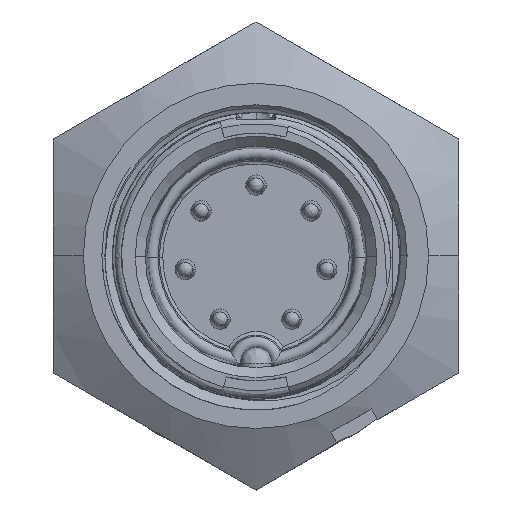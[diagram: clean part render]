
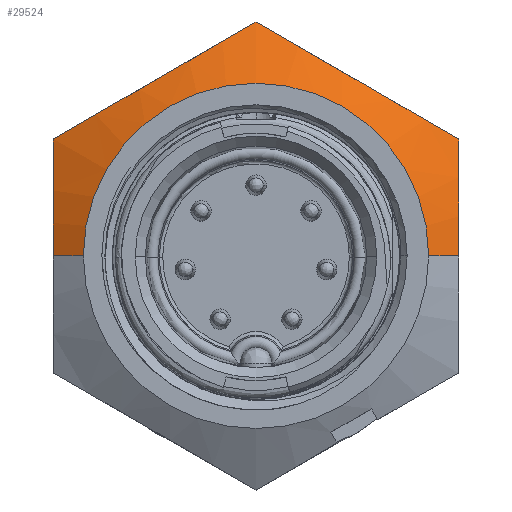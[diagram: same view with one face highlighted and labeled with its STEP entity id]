
A CAD part, top view. The second image highlights one B-rep face of the part: STEP entity #29524.
In plain terms, the highlighted conical face has half-angle 60 degrees and reference radius 11.934 mm.
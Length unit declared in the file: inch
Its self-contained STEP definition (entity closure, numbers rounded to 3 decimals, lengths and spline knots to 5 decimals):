
#356 = CARTESIAN_POINT ( 'NONE',  ( -0.34612, 0., 1.641 ) ) ;
#1277 = CARTESIAN_POINT ( 'NONE',  ( -0.40625, 0., 1.60628 ) ) ;
#1313 = CARTESIAN_POINT ( 'NONE',  ( -0.40625, 0.03996, 1.60628 ) ) ;
#1322 = CARTESIAN_POINT ( 'NONE',  ( -0.40625, 0.07942, 1.60283 ) ) ;
#1355 = CARTESIAN_POINT ( 'NONE',  ( -0.40625, 0.15753, 1.5902 ) ) ;
#1481 = CARTESIAN_POINT ( 'NONE',  ( -0.40625, 0.19618, 1.58108 ) ) ;
#1769 = CARTESIAN_POINT ( 'NONE',  ( -0.40625, 0.23455, 1.57 ) ) ;
#2964 = FACE_OUTER_BOUND ( 'NONE', #33357, .T. ) ;
#2995 = VERTEX_POINT ( 'NONE', #27398 ) ;
#4216 = ORIENTED_EDGE ( 'NONE', *, *, #6099, .T. ) ;
#4566 = CARTESIAN_POINT ( 'NONE',  ( -0.40625, 0., 1.60628 ) ) ;
#4913 = AXIS2_PLACEMENT_3D ( 'NONE', #26063, #26024, #25997 ) ;
#5503 = EDGE_CURVE ( 'NONE', #28295, #17199, #10158, .T. ) ;
#5546 = EDGE_CURVE ( 'NONE', #11580, #28295, #14494, .T. ) ;
#5643 = EDGE_CURVE ( 'NONE', #11580, #15665, #18390, .T. ) ;
#5691 = EDGE_CURVE ( 'NONE', #29184, #2995, #21371, .T. ) ;
#6099 = EDGE_CURVE ( 'NONE', #2995, #15665, #23730, .T. ) ;
#10158 = LINE ( 'NONE', #26788, #15761 ) ;
#10348 = CONICAL_SURFACE ( 'NONE', #16812, 0.46983, 1.047 ) ;
#11580 = VERTEX_POINT ( 'NONE', #356 ) ;
#12313 = ORIENTED_EDGE ( 'NONE', *, *, #5643, .F. ) ;
#14343 = ORIENTED_EDGE ( 'NONE', *, *, #30599, .T. ) ;
#14494 = CIRCLE ( 'NONE', #4913, 0.34612 ) ;
#15059 = DIRECTION ( 'NONE',  ( -1., 0., 0. ) ) ;
#15102 = ORIENTED_EDGE ( 'NONE', *, *, #5691, .T. ) ;
#15631 = DIRECTION ( 'NONE',  ( 0., 0., -1. ) ) ;
#15665 = VERTEX_POINT ( 'NONE', #4566 ) ;
#15714 = CARTESIAN_POINT ( 'NONE',  ( 0., 0., 1.56957 ) ) ;
#15761 = VECTOR ( 'NONE', #26418, 39.37008 ) ;
#16070 = VERTEX_POINT ( 'NONE', #18438 ) ;
#16140 = B_SPLINE_CURVE_WITH_KNOTS ( 'NONE', 3,
 ( #21823, #21868, #21743, #21700, #21625, #21581, #21502, #21460, #21341, #21266, #21155, #21118 ),
 .UNSPECIFIED., .F., .F.,
 ( 4, 2, 2, 2, 2, 4 ),
 ( 0., 0.00301, 0.00602, 0.00752, 0.00903, 0.01203 ),
 .UNSPECIFIED. ) ;
#16812 = AXIS2_PLACEMENT_3D ( 'NONE', #15714, #15631, #15059 ) ;
#17104 = VECTOR ( 'NONE', #24888, 39.37008 ) ;
#17199 = VERTEX_POINT ( 'NONE', #21168 ) ;
#17377 = B_SPLINE_CURVE_WITH_KNOTS ( 'NONE', 3,
 ( #31341, #32039, #30827, #30766, #30722, #30660, #30619, #30579 ),
 .UNSPECIFIED., .F., .F.,
 ( 4, 2, 2, 4 ),
 ( 0.00603, 0.00753, 0.00903, 0.01203 ),
 .UNSPECIFIED. ) ;
#18390 = LINE ( 'NONE', #26098, #17104 ) ;
#18438 = CARTESIAN_POINT ( 'NONE',  ( 0.40625, 0.23455, 1.57 ) ) ;
#19147 = ORIENTED_EDGE ( 'NONE', *, *, #5546, .T. ) ;
#20255 = CARTESIAN_POINT ( 'NONE',  ( 0.34612, 0., 1.641 ) ) ;
#20903 = CARTESIAN_POINT ( 'NONE',  ( 0., 0.4691, 1.57 ) ) ;
#21118 = CARTESIAN_POINT ( 'NONE',  ( 0., 0.4691, 1.57 ) ) ;
#21155 = CARTESIAN_POINT ( 'NONE',  ( 0.03321, 0.44992, 1.58107 ) ) ;
#21168 = CARTESIAN_POINT ( 'NONE',  ( 0.40625, 0., 1.60628 ) ) ;
#21266 = CARTESIAN_POINT ( 'NONE',  ( 0.06669, 0.43059, 1.5902 ) ) ;
#21341 = CARTESIAN_POINT ( 'NONE',  ( 0.11753, 0.40124, 1.59969 ) ) ;
#21371 = B_SPLINE_CURVE_WITH_KNOTS ( 'NONE', 3,
 ( #24379, #24388, #24299, #24292, #24269, #24260, #24227, #24182, #24176, #24150, #24138, #24108 ),
 .UNSPECIFIED., .F., .F.,
 ( 4, 2, 2, 2, 2, 4 ),
 ( 0., 0.00301, 0.00602, 0.00752, 0.00903, 0.01203 ),
 .UNSPECIFIED. ) ;
#21460 = CARTESIAN_POINT ( 'NONE',  ( 0.13457, 0.3914, 1.60214 ) ) ;
#21502 = CARTESIAN_POINT ( 'NONE',  ( 0.16889, 0.37159, 1.60545 ) ) ;
#21581 = CARTESIAN_POINT ( 'NONE',  ( 0.18624, 0.36157, 1.6063 ) ) ;
#21625 = CARTESIAN_POINT ( 'NONE',  ( 0.23805, 0.33166, 1.60626 ) ) ;
#21700 = CARTESIAN_POINT ( 'NONE',  ( 0.27216, 0.31196, 1.60279 ) ) ;
#21743 = CARTESIAN_POINT ( 'NONE',  ( 0.33968, 0.27299, 1.59017 ) ) ;
#21823 = CARTESIAN_POINT ( 'NONE',  ( 0.40625, 0.23455, 1.57 ) ) ;
#21868 = CARTESIAN_POINT ( 'NONE',  ( 0.37308, 0.2537, 1.58106 ) ) ;
#23730 = B_SPLINE_CURVE_WITH_KNOTS ( 'NONE', 3,
 ( #1769, #1481, #1355, #1322, #1313, #1277 ),
 .UNSPECIFIED., .F., .F.,
 ( 4, 2, 4 ),
 ( 0., 0.00301, 0.00603 ),
 .UNSPECIFIED. ) ;
#24108 = CARTESIAN_POINT ( 'NONE',  ( -0.40625, 0.23455, 1.57 ) ) ;
#24138 = CARTESIAN_POINT ( 'NONE',  ( -0.37304, 0.25372, 1.58107 ) ) ;
#24150 = CARTESIAN_POINT ( 'NONE',  ( -0.33956, 0.27305, 1.5902 ) ) ;
#24176 = CARTESIAN_POINT ( 'NONE',  ( -0.28872, 0.3024, 1.59969 ) ) ;
#24182 = CARTESIAN_POINT ( 'NONE',  ( -0.27168, 0.31224, 1.60214 ) ) ;
#24227 = CARTESIAN_POINT ( 'NONE',  ( -0.23736, 0.33206, 1.60545 ) ) ;
#24260 = CARTESIAN_POINT ( 'NONE',  ( -0.22001, 0.34208, 1.6063 ) ) ;
#24269 = CARTESIAN_POINT ( 'NONE',  ( -0.1682, 0.37199, 1.60626 ) ) ;
#24292 = CARTESIAN_POINT ( 'NONE',  ( -0.13409, 0.39168, 1.60279 ) ) ;
#24299 = CARTESIAN_POINT ( 'NONE',  ( -0.06657, 0.43066, 1.59017 ) ) ;
#24379 = CARTESIAN_POINT ( 'NONE',  ( 0., 0.4691, 1.57 ) ) ;
#24388 = CARTESIAN_POINT ( 'NONE',  ( -0.03317, 0.44995, 1.58106 ) ) ;
#24888 = DIRECTION ( 'NONE',  ( -0.866, 0., -0.5 ) ) ;
#25997 = DIRECTION ( 'NONE',  ( -1., 0., 0. ) ) ;
#26024 = DIRECTION ( 'NONE',  ( 0., 0., -1. ) ) ;
#26063 = CARTESIAN_POINT ( 'NONE',  ( 0., 0., 1.641 ) ) ;
#26098 = CARTESIAN_POINT ( 'NONE',  ( -0.46983, 0., 1.56957 ) ) ;
#26418 = DIRECTION ( 'NONE',  ( 0.866, 0., -0.5 ) ) ;
#26788 = CARTESIAN_POINT ( 'NONE',  ( 0.46983, 0., 1.56957 ) ) ;
#27398 = CARTESIAN_POINT ( 'NONE',  ( -0.40625, 0.23455, 1.57 ) ) ;
#28295 = VERTEX_POINT ( 'NONE', #20255 ) ;
#29184 = VERTEX_POINT ( 'NONE', #20903 ) ;
#29524 = ADVANCED_FACE ( 'NONE', ( #2964 ), #10348, .T. ) ;
#29766 = ORIENTED_EDGE ( 'NONE', *, *, #30913, .T. ) ;
#30579 = CARTESIAN_POINT ( 'NONE',  ( 0.40625, 0.23455, 1.57 ) ) ;
#30599 = EDGE_CURVE ( 'NONE', #17199, #16070, #17377, .T. ) ;
#30619 = CARTESIAN_POINT ( 'NONE',  ( 0.40625, 0.19628, 1.58105 ) ) ;
#30660 = CARTESIAN_POINT ( 'NONE',  ( 0.40625, 0.15768, 1.59017 ) ) ;
#30722 = CARTESIAN_POINT ( 'NONE',  ( 0.40625, 0.0991, 1.59965 ) ) ;
#30766 = CARTESIAN_POINT ( 'NONE',  ( 0.40625, 0.07945, 1.60211 ) ) ;
#30827 = CARTESIAN_POINT ( 'NONE',  ( 0.40625, 0.0399, 1.60543 ) ) ;
#30913 = EDGE_CURVE ( 'NONE', #16070, #29184, #16140, .T. ) ;
#31341 = CARTESIAN_POINT ( 'NONE',  ( 0.40625, 0., 1.60628 ) ) ;
#31534 = ORIENTED_EDGE ( 'NONE', *, *, #5503, .T. ) ;
#32039 = CARTESIAN_POINT ( 'NONE',  ( 0.40625, 0.01991, 1.60628 ) ) ;
#33357 = EDGE_LOOP ( 'NONE', ( #19147, #31534, #14343, #29766, #15102, #4216, #12313 ) ) ;
